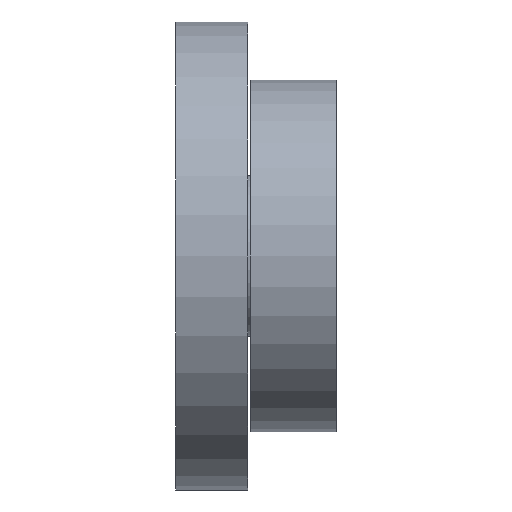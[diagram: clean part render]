
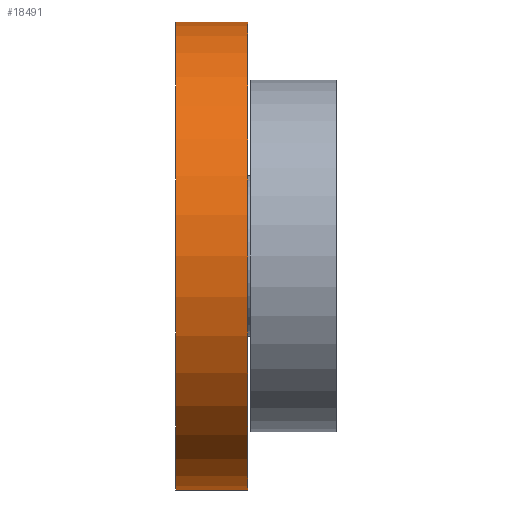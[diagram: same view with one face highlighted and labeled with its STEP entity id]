
A CAD part, left-side view. The second image highlights one B-rep face of the part: STEP entity #18491.
In plain terms, the highlighted cylindrical face has radius 175 mm (diameter 350 mm), a partial arc.
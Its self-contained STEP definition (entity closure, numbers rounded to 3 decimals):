
#58 = CARTESIAN_POINT ( 'NONE',  ( 0., 54., -175. ) ) ;
#1158 = DIRECTION ( 'NONE',  ( 0., -1., 0. ) ) ;
#1427 = DIRECTION ( 'NONE',  ( 0., 1., 0. ) ) ;
#1915 = VERTEX_POINT ( 'NONE', #4184 ) ;
#3574 = VECTOR ( 'NONE', #13559, 1000. ) ;
#3961 = FACE_OUTER_BOUND ( 'NONE', #20954, .T. ) ;
#4184 = CARTESIAN_POINT ( 'NONE',  ( 0., 54., 175. ) ) ;
#4648 = CARTESIAN_POINT ( 'NONE',  ( 0., 0., 0. ) ) ;
#5038 = EDGE_CURVE ( 'NONE', #1915, #19911, #10392, .T. ) ;
#6095 = EDGE_CURVE ( 'NONE', #1915, #7451, #8639, .T. ) ;
#6600 = AXIS2_PLACEMENT_3D ( 'NONE', #17427, #1158, #17747 ) ;
#6679 = VERTEX_POINT ( 'NONE', #20507 ) ;
#7049 = CARTESIAN_POINT ( 'NONE',  ( 0., 54., -175. ) ) ;
#7451 = VERTEX_POINT ( 'NONE', #58 ) ;
#8639 = CIRCLE ( 'NONE', #20583, 175. ) ;
#8948 = ORIENTED_EDGE ( 'NONE', *, *, #15118, .F. ) ;
#10278 = ORIENTED_EDGE ( 'NONE', *, *, #10923, .T. ) ;
#10392 = LINE ( 'NONE', #20432, #16813 ) ;
#10638 = ORIENTED_EDGE ( 'NONE', *, *, #5038, .T. ) ;
#10923 = EDGE_CURVE ( 'NONE', #19911, #6679, #16950, .T. ) ;
#11165 = DIRECTION ( 'NONE',  ( 0., 0., 1. ) ) ;
#11948 = CARTESIAN_POINT ( 'NONE',  ( 0., 0., 175. ) ) ;
#12466 = AXIS2_PLACEMENT_3D ( 'NONE', #4648, #1427, #11165 ) ;
#13559 = DIRECTION ( 'NONE',  ( 0., -1., 0. ) ) ;
#14294 = CARTESIAN_POINT ( 'NONE',  ( 0., 54., 0. ) ) ;
#15118 = EDGE_CURVE ( 'NONE', #7451, #6679, #20171, .T. ) ;
#15303 = DIRECTION ( 'NONE',  ( 0., -1., 0. ) ) ;
#16813 = VECTOR ( 'NONE', #15303, 1000. ) ;
#16950 = CIRCLE ( 'NONE', #12466, 175. ) ;
#17413 = DIRECTION ( 'NONE',  ( 0., 1., 0. ) ) ;
#17427 = CARTESIAN_POINT ( 'NONE',  ( 0., 54., 0. ) ) ;
#17430 = ORIENTED_EDGE ( 'NONE', *, *, #6095, .F. ) ;
#17519 = DIRECTION ( 'NONE',  ( 0., 0., 1. ) ) ;
#17747 = DIRECTION ( 'NONE',  ( 0., 0., -1. ) ) ;
#18491 = ADVANCED_FACE ( 'NONE', ( #3961 ), #19035, .T. ) ;
#19035 = CYLINDRICAL_SURFACE ( 'NONE', #6600, 175. ) ;
#19911 = VERTEX_POINT ( 'NONE', #11948 ) ;
#20171 = LINE ( 'NONE', #7049, #3574 ) ;
#20432 = CARTESIAN_POINT ( 'NONE',  ( 0., 54., 175. ) ) ;
#20507 = CARTESIAN_POINT ( 'NONE',  ( 0., 0., -175. ) ) ;
#20583 = AXIS2_PLACEMENT_3D ( 'NONE', #14294, #17413, #17519 ) ;
#20954 = EDGE_LOOP ( 'NONE', ( #17430, #10638, #10278, #8948 ) ) ;
